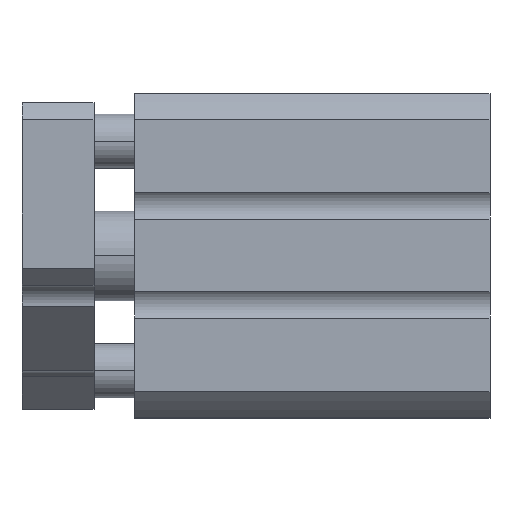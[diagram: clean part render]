
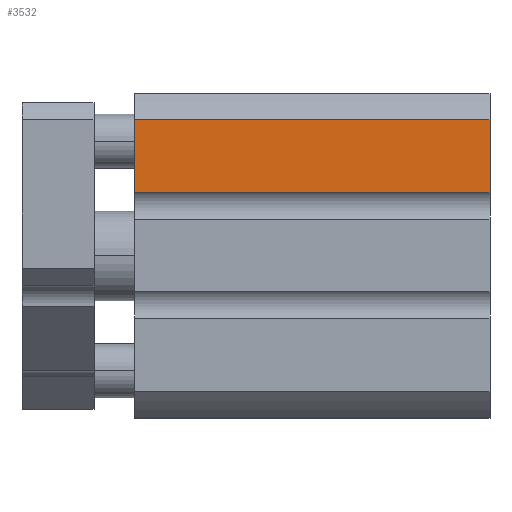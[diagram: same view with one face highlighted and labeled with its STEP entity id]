
A CAD part, top view. The second image highlights one B-rep face of the part: STEP entity #3532.
In plain terms, the highlighted planar face has unit normal (0, 0, 1).
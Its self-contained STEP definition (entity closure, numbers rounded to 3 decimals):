
#12 = VERTEX_POINT ( 'NONE', #2660 ) ;
#48 = EDGE_CURVE ( 'NONE', #239, #4177, #4111, .T. ) ;
#89 = VECTOR ( 'NONE', #569, 1000. ) ;
#212 = VECTOR ( 'NONE', #2589, 1000. ) ;
#239 = VERTEX_POINT ( 'NONE', #2762 ) ;
#421 = PLANE ( 'NONE',  #3748 ) ;
#471 = EDGE_CURVE ( 'NONE', #608, #4177, #3732, .T. ) ;
#542 = ORIENTED_EDGE ( 'NONE', *, *, #471, .T. ) ;
#547 = CARTESIAN_POINT ( 'NONE',  ( 39.5, 7., 18. ) ) ;
#569 = DIRECTION ( 'NONE',  ( 0., -1., 0. ) ) ;
#608 = VERTEX_POINT ( 'NONE', #2849 ) ;
#767 = DIRECTION ( 'NONE',  ( 0., -1., 0. ) ) ;
#868 = CARTESIAN_POINT ( 'NONE',  ( 39.5, 15.108, 18. ) ) ;
#1089 = ORIENTED_EDGE ( 'NONE', *, *, #48, .F. ) ;
#1131 = CARTESIAN_POINT ( 'NONE',  ( 39.5, 15.108, 18. ) ) ;
#1337 = CARTESIAN_POINT ( 'NONE',  ( 39.5, 15.108, 18. ) ) ;
#1537 = VECTOR ( 'NONE', #4478, 1000. ) ;
#1691 = EDGE_CURVE ( 'NONE', #12, #239, #2702, .T. ) ;
#2535 = FACE_OUTER_BOUND ( 'NONE', #2844, .T. ) ;
#2586 = ORIENTED_EDGE ( 'NONE', *, *, #1691, .F. ) ;
#2589 = DIRECTION ( 'NONE',  ( 0., -1., 0. ) ) ;
#2638 = VECTOR ( 'NONE', #3298, 1000. ) ;
#2660 = CARTESIAN_POINT ( 'NONE',  ( 39.5, 15.108, 18. ) ) ;
#2702 = LINE ( 'NONE', #868, #89 ) ;
#2762 = CARTESIAN_POINT ( 'NONE',  ( 39.5, 7., 18. ) ) ;
#2807 = EDGE_CURVE ( 'NONE', #12, #608, #3061, .T. ) ;
#2844 = EDGE_LOOP ( 'NONE', ( #542, #1089, #2586, #3195 ) ) ;
#2849 = CARTESIAN_POINT ( 'NONE',  ( 0., 15.108, 18. ) ) ;
#3061 = LINE ( 'NONE', #1337, #1537 ) ;
#3164 = CARTESIAN_POINT ( 'NONE',  ( 0., 7., 18. ) ) ;
#3195 = ORIENTED_EDGE ( 'NONE', *, *, #2807, .T. ) ;
#3265 = DIRECTION ( 'NONE',  ( 0., 0., -1. ) ) ;
#3298 = DIRECTION ( 'NONE',  ( -1., 0., 0. ) ) ;
#3532 = ADVANCED_FACE ( 'NONE', ( #2535 ), #421, .F. ) ;
#3732 = LINE ( 'NONE', #4389, #212 ) ;
#3748 = AXIS2_PLACEMENT_3D ( 'NONE', #1131, #3265, #767 ) ;
#4111 = LINE ( 'NONE', #547, #2638 ) ;
#4177 = VERTEX_POINT ( 'NONE', #3164 ) ;
#4389 = CARTESIAN_POINT ( 'NONE',  ( 0., 15.108, 18. ) ) ;
#4478 = DIRECTION ( 'NONE',  ( -1., 0., 0. ) ) ;
